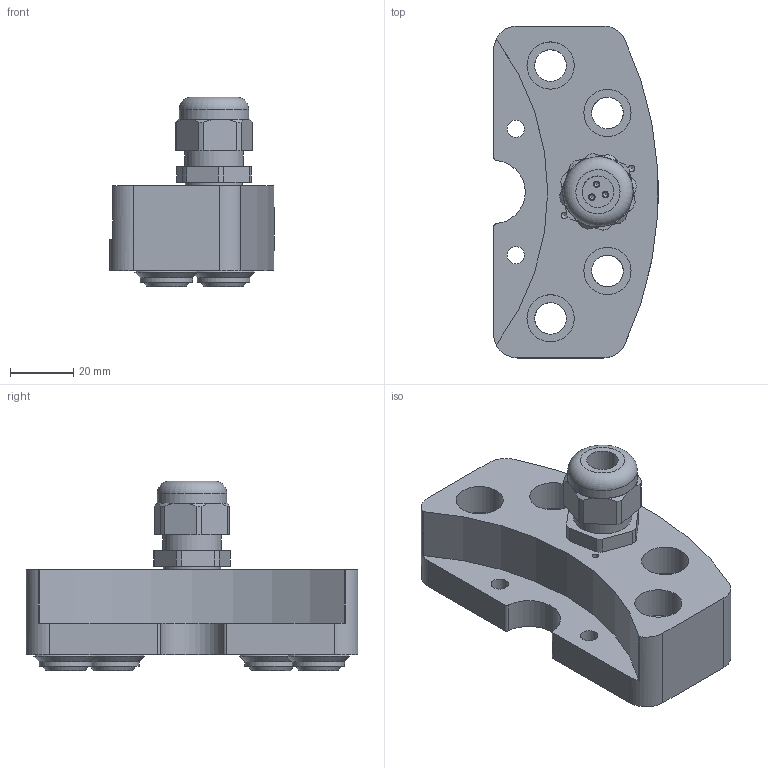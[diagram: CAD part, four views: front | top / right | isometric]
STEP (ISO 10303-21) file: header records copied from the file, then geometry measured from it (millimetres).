
FILE_DESCRIPTION(/* description */ (''),/* implementation_level */ '2;1');
FILE_NAME(/* name */ 'T:\Engineering\Homepage\Homepage 2020\4 3D Step-Daten - Homepage\5 MEK\G-MEK160-O-4G3_8-1E12.stp',/* time_stamp */ '2023-01-06T10:44:59+01:00',/* author */ ('ysplieth'),/* organization */ (''),/* preprocessor_version */ 'ST-DEVELOPER v17',/* originating_system */ 'Autodesk Inventor 2018',/* authorisation */ '');
FILE_SCHEMA (('AUTOMOTIVE_DESIGN { 1 0 10303 214 3 1 1 }'));
Length unit declared in the file: millimetre
Products named in the file (1): Bauteil1
Bounding box: 52.1 x 105 x 60.1 mm (x, y, z)
Volume: 103489.1 mm3; surface area: 31532.3 mm2
Topology: 1 solids, 1 shells, 359 faces, 989 edges, 645 vertices
Faces by surface type: cylinder 155, plane 135, cone 36, torus 21, sphere 12
Full cylindrical faces by diameter (mm): 1 x12, 1.6 x12, 2 x17, 2.013 x2, 5.5 x2, 10 x11, 12 x4, 14.95 x4, 15.9 x1, 16.6 x4, 17 x4, 17.1 x1, 18.1 x1, 18.5 x1, 22 x1, 23 x2, 25.5 x2
Entity records: 13345 total; most frequent: CARTESIAN_POINT 3469, DIRECTION 2074, ORIENTED_EDGE 1944, EDGE_CURVE 972, AXIS2_PLACEMENT_3D 835, VERTEX_POINT 645, CIRCLE 475, EDGE_LOOP 440
